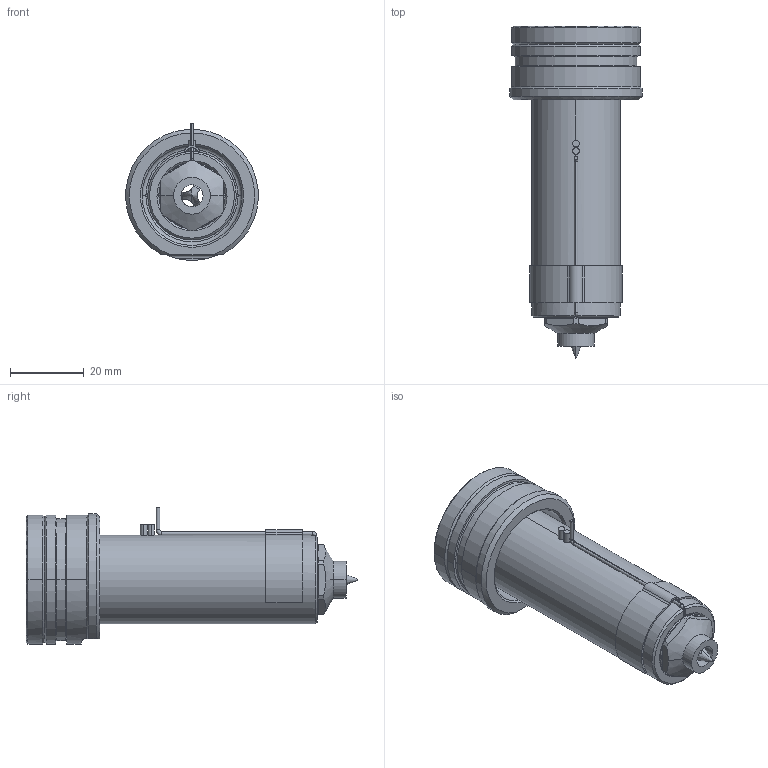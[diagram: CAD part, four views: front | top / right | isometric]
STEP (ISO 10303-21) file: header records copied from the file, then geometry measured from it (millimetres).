
FILE_DESCRIPTION((''),'2;1');
FILE_NAME('EO06_PG-BL_WR_070_SW','2024-02-19T11:02:57',('sundharh'),(''),'CREO PARAMETRIC BY PTC INC, 2023154','CREO PARAMETRIC BY PTC INC, 2023154','');
FILE_SCHEMA(('CONFIG_CONTROL_DESIGN'));
Length unit declared in the file: millimetre
Products named in the file (1): EO06_PG-BL_WR_070_SW
Bounding box: 35.93 x 90 x 37 mm (x, y, z)
Volume: 43157.5 mm3; surface area: 14082.8 mm2
Topology: 2 solids, 2 shells, 205 faces, 552 edges, 340 vertices
Faces by surface type: cylinder 83, plane 55, cone 38, torus 21, bspline 6, sphere 2
Entity records: 7388 total; most frequent: CARTESIAN_POINT 2151, DIRECTION 1153, ORIENTED_EDGE 1092, EDGE_CURVE 546, AXIS2_PLACEMENT_3D 485, VERTEX_POINT 340, CIRCLE 286, EDGE_LOOP 220
